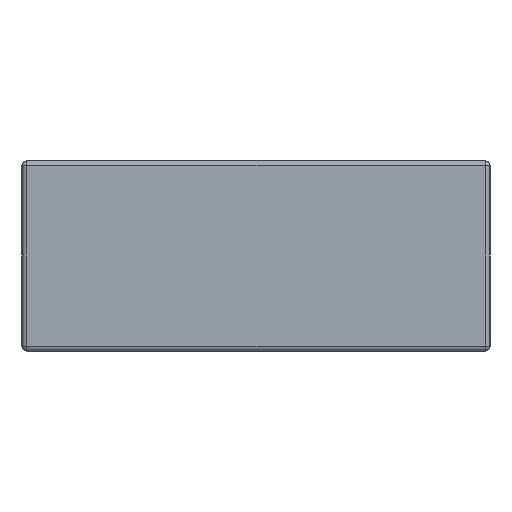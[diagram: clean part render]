
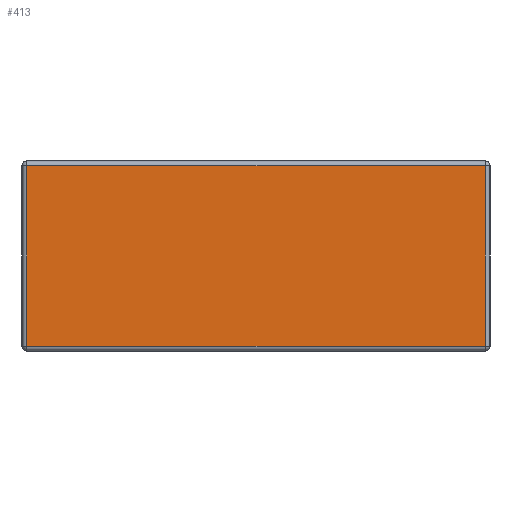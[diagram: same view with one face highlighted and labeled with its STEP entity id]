
A CAD part, left-side view. The second image highlights one B-rep face of the part: STEP entity #413.
In plain terms, the highlighted planar face has unit normal (-1, 0, 0).
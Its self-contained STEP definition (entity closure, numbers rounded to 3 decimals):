
#374 = CARTESIAN_POINT ( 'NONE',  ( -1.55, 0.784, 0.634 ) ) ;
#375 = VERTEX_POINT ( 'NONE', #374 ) ;
#376 = CARTESIAN_POINT ( 'NONE',  ( -1.55, 0.784, 0.016 ) ) ;
#377 = VERTEX_POINT ( 'NONE', #376 ) ;
#378 = CARTESIAN_POINT ( 'NONE',  ( -1.55, 0.784, 0. ) ) ;
#379 = DIRECTION ( 'NONE',  ( 0., 0., -1. ) ) ;
#380 = VECTOR ( 'NONE', #379, 1000. ) ;
#381 = LINE ( 'NONE', #378, #380 ) ;
#382 = EDGE_CURVE ( 'NONE', #375, #377, #381, .T. ) ;
#383 = ORIENTED_EDGE ( 'NONE', *, *, #382, .T. ) ;
#384 = CARTESIAN_POINT ( 'NONE',  ( -1.55, -0.784, 0.016 ) ) ;
#385 = VERTEX_POINT ( 'NONE', #384 ) ;
#386 = CARTESIAN_POINT ( 'NONE',  ( -1.55, 0.8, 0.016 ) ) ;
#387 = DIRECTION ( 'NONE',  ( 0., -1., 0. ) ) ;
#388 = VECTOR ( 'NONE', #387, 1000. ) ;
#389 = LINE ( 'NONE', #386, #388 ) ;
#390 = EDGE_CURVE ( 'NONE', #377, #385, #389, .T. ) ;
#391 = ORIENTED_EDGE ( 'NONE', *, *, #390, .T. ) ;
#392 = CARTESIAN_POINT ( 'NONE',  ( -1.55, -0.784, 0.634 ) ) ;
#393 = VERTEX_POINT ( 'NONE', #392 ) ;
#394 = CARTESIAN_POINT ( 'NONE',  ( -1.55, -0.784, 0.65 ) ) ;
#395 = DIRECTION ( 'NONE',  ( 0., 0., 1. ) ) ;
#396 = VECTOR ( 'NONE', #395, 1000. ) ;
#397 = LINE ( 'NONE', #394, #396 ) ;
#398 = EDGE_CURVE ( 'NONE', #385, #393, #397, .T. ) ;
#399 = ORIENTED_EDGE ( 'NONE', *, *, #398, .T. ) ;
#400 = CARTESIAN_POINT ( 'NONE',  ( -1.55, 0.8, 0.634 ) ) ;
#401 = DIRECTION ( 'NONE',  ( 0., 1., 0. ) ) ;
#402 = VECTOR ( 'NONE', #401, 1000. ) ;
#403 = LINE ( 'NONE', #400, #402 ) ;
#404 = EDGE_CURVE ( 'NONE', #393, #375, #403, .T. ) ;
#405 = ORIENTED_EDGE ( 'NONE', *, *, #404, .T. ) ;
#406 = EDGE_LOOP ( 'NONE', ( #383, #391, #399, #405 ) ) ;
#407 = FACE_OUTER_BOUND ( 'NONE', #406, .T. ) ;
#408 = CARTESIAN_POINT ( 'NONE',  ( -1.55, 0.8, 0.65 ) ) ;
#409 = DIRECTION ( 'NONE',  ( -1., 0., 0. ) ) ;
#410 = DIRECTION ( 'NONE',  ( 0., 0., -1. ) ) ;
#411 = AXIS2_PLACEMENT_3D ( 'NONE', #408, #409, #410 ) ;
#412 = PLANE ( 'NONE', #411 ) ;
#413 = ADVANCED_FACE ( 'NONE', ( #407 ), #412, .T. ) ;
